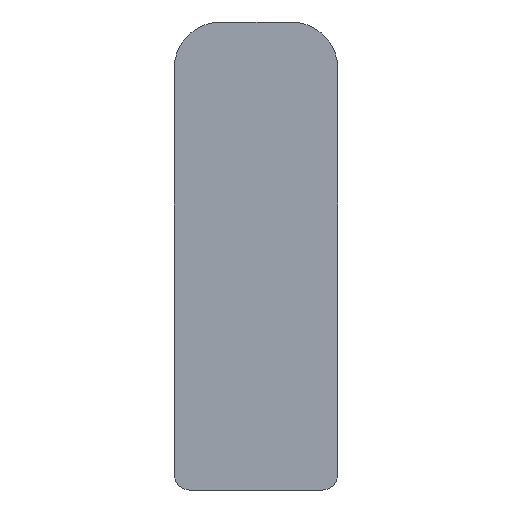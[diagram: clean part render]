
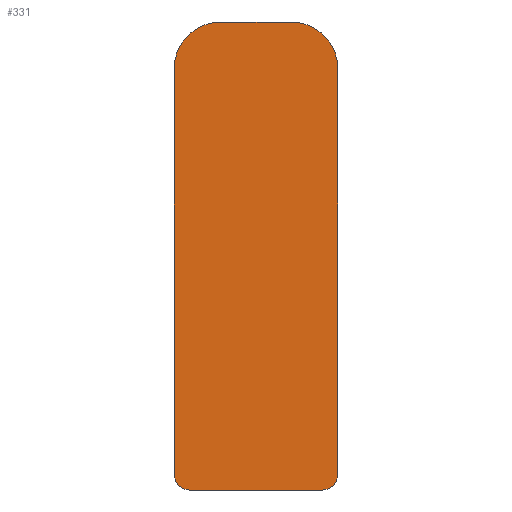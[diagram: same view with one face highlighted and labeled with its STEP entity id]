
A CAD part, left-side view. The second image highlights one B-rep face of the part: STEP entity #331.
In plain terms, the highlighted planar face has unit normal (-1, 0, 0).
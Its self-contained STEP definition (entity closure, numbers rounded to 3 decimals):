
#1 = LINE ( 'NONE', #311, #339 ) ;
#3 = CIRCLE ( 'NONE', #164, 1. ) ;
#6 = ORIENTED_EDGE ( 'NONE', *, *, #88, .T. ) ;
#7 = VECTOR ( 'NONE', #327, 1000. ) ;
#10 = LINE ( 'NONE', #328, #7 ) ;
#13 = ORIENTED_EDGE ( 'NONE', *, *, #90, .T. ) ;
#23 = CIRCLE ( 'NONE', #166, 1. ) ;
#31 = EDGE_LOOP ( 'NONE', ( #71, #72, #73, #74, #75, #76, #6, #13 ) ) ;
#71 = ORIENTED_EDGE ( 'NONE', *, *, #94, .T. ) ;
#72 = ORIENTED_EDGE ( 'NONE', *, *, #98, .T. ) ;
#73 = ORIENTED_EDGE ( 'NONE', *, *, #93, .T. ) ;
#74 = ORIENTED_EDGE ( 'NONE', *, *, #170, .T. ) ;
#75 = ORIENTED_EDGE ( 'NONE', *, *, #82, .T. ) ;
#76 = ORIENTED_EDGE ( 'NONE', *, *, #85, .T. ) ;
#78 = CIRCLE ( 'NONE', #162, 3. ) ;
#82 = EDGE_CURVE ( 'NONE', #302, #326, #23, .T. ) ;
#85 = EDGE_CURVE ( 'NONE', #326, #320, #10, .T. ) ;
#88 = EDGE_CURVE ( 'NONE', #320, #285, #3, .T. ) ;
#90 = EDGE_CURVE ( 'NONE', #285, #312, #1, .T. ) ;
#93 = EDGE_CURVE ( 'NONE', #305, #317, #78, .T. ) ;
#94 = EDGE_CURVE ( 'NONE', #312, #281, #179, .T. ) ;
#98 = EDGE_CURVE ( 'NONE', #281, #305, #142, .T. ) ;
#119 = FACE_OUTER_BOUND ( 'NONE', #31, .T. ) ;
#127 = VECTOR ( 'NONE', #268, 1000. ) ;
#128 = LINE ( 'NONE', #269, #127 ) ;
#141 = VECTOR ( 'NONE', #283, 1000. ) ;
#142 = LINE ( 'NONE', #284, #141 ) ;
#155 = AXIS2_PLACEMENT_3D ( 'NONE', #231, #229, #228 ) ;
#161 = AXIS2_PLACEMENT_3D ( 'NONE', #297, #296, #294 ) ;
#162 = AXIS2_PLACEMENT_3D ( 'NONE', #301, #300, #299 ) ;
#164 = AXIS2_PLACEMENT_3D ( 'NONE', #319, #316, #315 ) ;
#166 = AXIS2_PLACEMENT_3D ( 'NONE', #223, #221, #219 ) ;
#170 = EDGE_CURVE ( 'NONE', #317, #302, #128, .T. ) ;
#179 = CIRCLE ( 'NONE', #161, 3. ) ;
#219 = DIRECTION ( 'NONE',  ( 0., 0., -1. ) ) ;
#221 = DIRECTION ( 'NONE',  ( -1., 0., 0. ) ) ;
#223 = CARTESIAN_POINT ( 'NONE',  ( -556.25, 4.25, 1. ) ) ;
#228 = DIRECTION ( 'NONE',  ( 0., 0., 1. ) ) ;
#229 = DIRECTION ( 'NONE',  ( -1., 0., 0. ) ) ;
#231 = CARTESIAN_POINT ( 'NONE',  ( -556.25, -2.25, 27. ) ) ;
#232 = PLANE ( 'NONE',  #155 ) ;
#244 = CARTESIAN_POINT ( 'NONE',  ( -556.25, 4.25, 0. ) ) ;
#245 = CARTESIAN_POINT ( 'NONE',  ( -556.25, -4.25, 0. ) ) ;
#247 = CARTESIAN_POINT ( 'NONE',  ( -556.25, 5.25, 27. ) ) ;
#248 = CARTESIAN_POINT ( 'NONE',  ( -556.25, -5.25, 27. ) ) ;
#250 = CARTESIAN_POINT ( 'NONE',  ( -556.25, 2.25, 30. ) ) ;
#251 = CARTESIAN_POINT ( 'NONE',  ( -556.25, 5.25, 1. ) ) ;
#256 = CARTESIAN_POINT ( 'NONE',  ( -556.25, -5.25, 1. ) ) ;
#257 = CARTESIAN_POINT ( 'NONE',  ( -556.25, -2.25, 30. ) ) ;
#268 = DIRECTION ( 'NONE',  ( 0., 0., -1. ) ) ;
#269 = CARTESIAN_POINT ( 'NONE',  ( -556.25, 5.25, 1. ) ) ;
#281 = VERTEX_POINT ( 'NONE', #257 ) ;
#283 = DIRECTION ( 'NONE',  ( 0., 1., 0. ) ) ;
#284 = CARTESIAN_POINT ( 'NONE',  ( -556.25, -2.25, 30. ) ) ;
#285 = VERTEX_POINT ( 'NONE', #256 ) ;
#294 = DIRECTION ( 'NONE',  ( 0., 0., 1. ) ) ;
#296 = DIRECTION ( 'NONE',  ( -1., 0., 0. ) ) ;
#297 = CARTESIAN_POINT ( 'NONE',  ( -556.25, -2.25, 27. ) ) ;
#299 = DIRECTION ( 'NONE',  ( 0., 0., -1. ) ) ;
#300 = DIRECTION ( 'NONE',  ( -1., 0., 0. ) ) ;
#301 = CARTESIAN_POINT ( 'NONE',  ( -556.25, 2.25, 27. ) ) ;
#302 = VERTEX_POINT ( 'NONE', #251 ) ;
#305 = VERTEX_POINT ( 'NONE', #250 ) ;
#310 = DIRECTION ( 'NONE',  ( 0., 0., 1. ) ) ;
#311 = CARTESIAN_POINT ( 'NONE',  ( -556.25, -5.25, 1. ) ) ;
#312 = VERTEX_POINT ( 'NONE', #248 ) ;
#315 = DIRECTION ( 'NONE',  ( 0., 0., -1. ) ) ;
#316 = DIRECTION ( 'NONE',  ( -1., 0., 0. ) ) ;
#317 = VERTEX_POINT ( 'NONE', #247 ) ;
#319 = CARTESIAN_POINT ( 'NONE',  ( -556.25, -4.25, 1. ) ) ;
#320 = VERTEX_POINT ( 'NONE', #245 ) ;
#326 = VERTEX_POINT ( 'NONE', #244 ) ;
#327 = DIRECTION ( 'NONE',  ( 0., -1., 0. ) ) ;
#328 = CARTESIAN_POINT ( 'NONE',  ( -556.25, -4.25, 0. ) ) ;
#331 = ADVANCED_FACE ( 'NONE', ( #119 ), #232, .T. ) ;
#339 = VECTOR ( 'NONE', #310, 1000. ) ;
